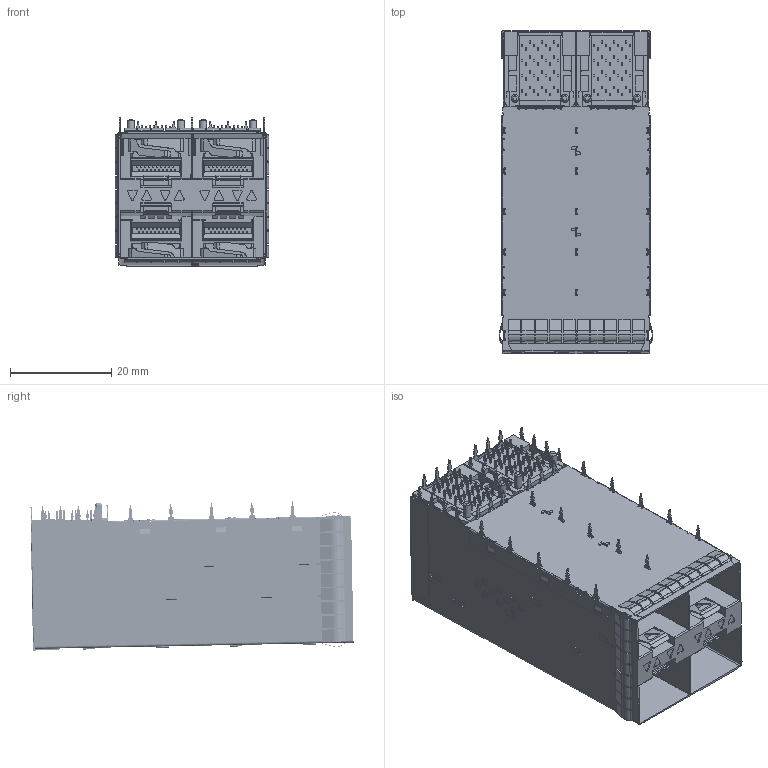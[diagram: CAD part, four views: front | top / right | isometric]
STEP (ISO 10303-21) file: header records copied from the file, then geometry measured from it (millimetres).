
FILE_DESCRIPTION((''),'2;1');
FILE_NAME('3D-ESF160504-C-REV-B-SFP28-2X2-','2017-09-20T',('Administrator'),(''),'PRO/ENGINEER BY PARAMETRIC TECHNOLOGY CORPORATION, 2009440','PRO/ENGINEER BY PARAMETRIC TECHNOLOGY CORPORATION, 2009440','');
FILE_SCHEMA(('CONFIG_CONTROL_DESIGN'));
Products named in the file (1): 3D-ESF160504-C-REV-B-SFP28-2X2-
Bounding box: 30.31 x 63.74 x 29.42 mm (x, y, z)
Volume: 22759.1 mm3; surface area: 25386.2 mm2
Topology: 1 solids, 1 shells, 5518 faces, 16401 edges, 10908 vertices
Faces by surface type: plane 3093, cylinder 2333, bspline 84, cone 8
Entity records: 191986 total; most frequent: CARTESIAN_POINT 39201, ORIENTED_EDGE 32802, DIRECTION 31921, EDGE_CURVE 16401, VERTEX_POINT 10908, VECTOR 10847, LINE 10847, AXIS2_PLACEMENT_3D 10537
